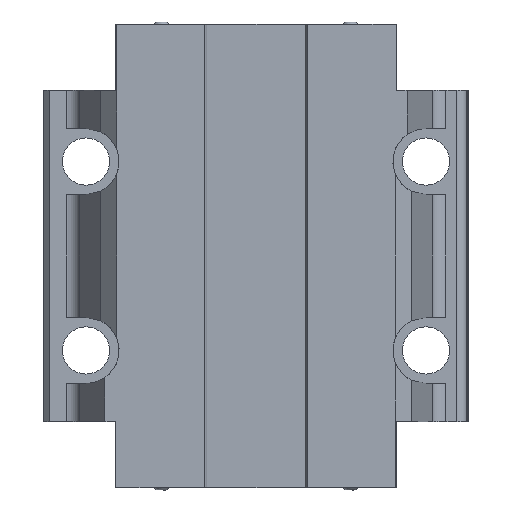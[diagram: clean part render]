
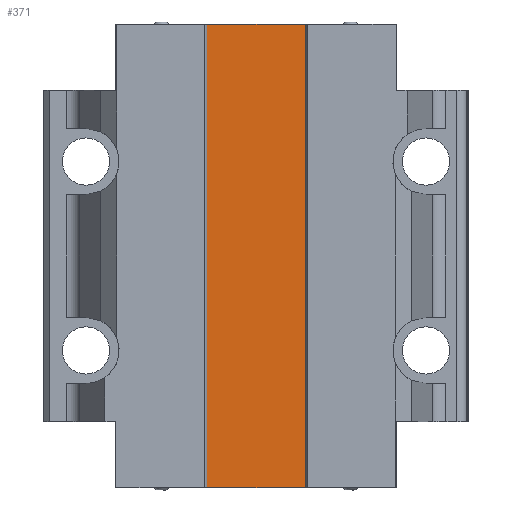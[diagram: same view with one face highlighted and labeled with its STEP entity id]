
A CAD part, front view. The second image highlights one B-rep face of the part: STEP entity #371.
In plain terms, the highlighted planar face has unit normal (0, -1, 0).
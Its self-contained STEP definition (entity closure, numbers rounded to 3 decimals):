
#121 = DIRECTION ( 'NONE',  ( 0., 0., -1. ) ) ;
#371 = ADVANCED_FACE ( 'NONE', ( #7974 ), #6368, .T. ) ;
#683 = CARTESIAN_POINT ( 'NONE',  ( 11.289, -0.1, 14. ) ) ;
#836 = VERTEX_POINT ( 'NONE', #3866 ) ;
#849 = VECTOR ( 'NONE', #121, 1000. ) ;
#949 = VERTEX_POINT ( 'NONE', #4480 ) ;
#1053 = EDGE_LOOP ( 'NONE', ( #2233, #5685, #2306, #5788 ) ) ;
#1218 = DIRECTION ( 'NONE',  ( 1., 0., 0. ) ) ;
#1436 = LINE ( 'NONE', #5504, #4390 ) ;
#2233 = ORIENTED_EDGE ( 'NONE', *, *, #4662, .F. ) ;
#2306 = ORIENTED_EDGE ( 'NONE', *, *, #4886, .F. ) ;
#2353 = DIRECTION ( 'NONE',  ( -1., 0., 0. ) ) ;
#2491 = CARTESIAN_POINT ( 'NONE',  ( 11.637, -0.1, 14. ) ) ;
#3866 = CARTESIAN_POINT ( 'NONE',  ( -11.289, -0.1, 14. ) ) ;
#4049 = DIRECTION ( 'NONE',  ( 0., -1., 0. ) ) ;
#4148 = AXIS2_PLACEMENT_3D ( 'NONE', #7989, #4049, #6970 ) ;
#4390 = VECTOR ( 'NONE', #2353, 1000. ) ;
#4480 = CARTESIAN_POINT ( 'NONE',  ( -11.289, -0.1, -84.1 ) ) ;
#4662 = EDGE_CURVE ( 'NONE', #836, #6343, #7932, .T. ) ;
#4886 = EDGE_CURVE ( 'NONE', #7229, #949, #1436, .T. ) ;
#5458 = CARTESIAN_POINT ( 'NONE',  ( 11.289, -0.1, 14. ) ) ;
#5504 = CARTESIAN_POINT ( 'NONE',  ( -11.637, -0.1, -84.1 ) ) ;
#5685 = ORIENTED_EDGE ( 'NONE', *, *, #6238, .T. ) ;
#5788 = ORIENTED_EDGE ( 'NONE', *, *, #7507, .T. ) ;
#5863 = CARTESIAN_POINT ( 'NONE',  ( -11.289, -0.1, -84.1 ) ) ;
#6225 = VECTOR ( 'NONE', #1218, 1000. ) ;
#6238 = EDGE_CURVE ( 'NONE', #836, #949, #7444, .T. ) ;
#6343 = VERTEX_POINT ( 'NONE', #5458 ) ;
#6368 = PLANE ( 'NONE',  #4148 ) ;
#6435 = CARTESIAN_POINT ( 'NONE',  ( 11.289, -0.1, -84.1 ) ) ;
#6719 = VECTOR ( 'NONE', #7064, 1000. ) ;
#6970 = DIRECTION ( 'NONE',  ( 0., 0., -1. ) ) ;
#7064 = DIRECTION ( 'NONE',  ( 0., 0., 1. ) ) ;
#7115 = LINE ( 'NONE', #683, #6719 ) ;
#7229 = VERTEX_POINT ( 'NONE', #6435 ) ;
#7444 = LINE ( 'NONE', #5863, #849 ) ;
#7507 = EDGE_CURVE ( 'NONE', #7229, #6343, #7115, .T. ) ;
#7932 = LINE ( 'NONE', #2491, #6225 ) ;
#7974 = FACE_OUTER_BOUND ( 'NONE', #1053, .T. ) ;
#7989 = CARTESIAN_POINT ( 'NONE',  ( -11.259, -0.1, 14. ) ) ;
